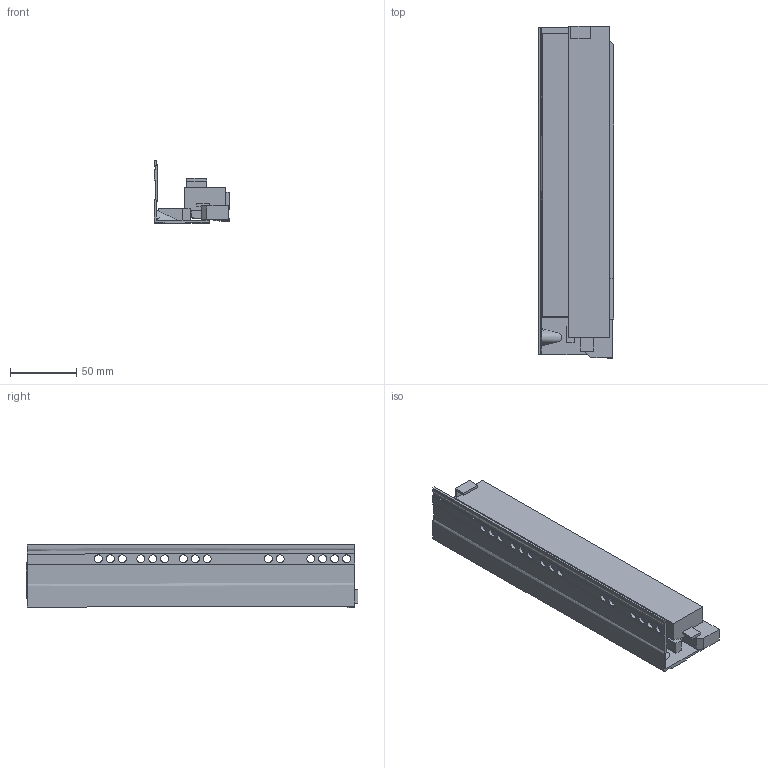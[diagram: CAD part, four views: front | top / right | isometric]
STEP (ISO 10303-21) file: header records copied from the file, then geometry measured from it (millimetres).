
FILE_DESCRIPTION (( 'STEP AP214' ), '1' );
FILE_NAME ('_IMOS_Dynapro_Softclose_D514_NL_250_LI.step', '2010-07-16T06:00:47', ( 'grass' ), ( '' ), 'SwSTEP 2.0', 'SolidWorks 2009', '' );
FILE_SCHEMA (( 'AUTOMOTIVE_DESIGN' ));
Length unit declared in the file: millimetre
Products named in the file (1): _IMOS_Dynapro_Softclose_D514_NL_250_LI
Bounding box: 57.08 x 250.07 x 47.86 mm (x, y, z)
Volume: 248312.9 mm3; surface area: 89494.9 mm2
Topology: 1 solids, 1 shells, 113 faces, 382 edges, 269 vertices
Faces by surface type: plane 77, cylinder 30, bspline 6
Entity records: 5070 total; most frequent: CARTESIAN_POINT 1590, ORIENTED_EDGE 760, DIRECTION 660, EDGE_CURVE 380, VECTOR 298, LINE 298, VERTEX_POINT 269, AXIS2_PLACEMENT_3D 181
